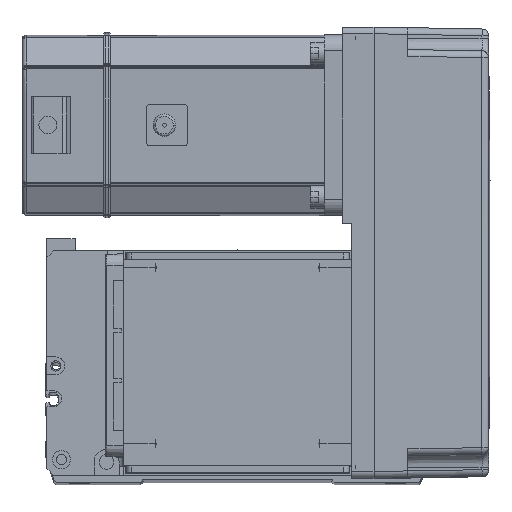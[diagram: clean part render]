
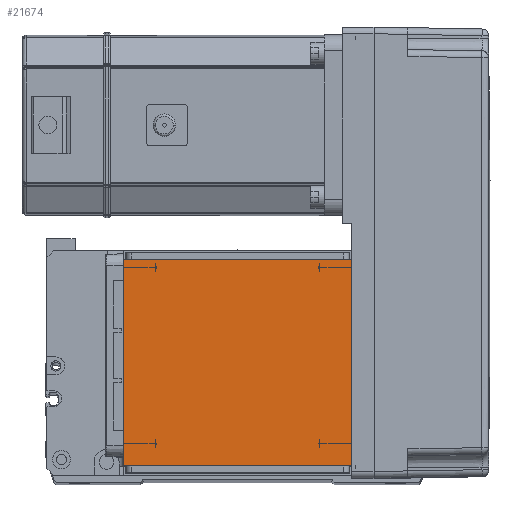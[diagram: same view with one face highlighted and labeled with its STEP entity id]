
A CAD part, top view. The second image highlights one B-rep face of the part: STEP entity #21674.
In plain terms, the highlighted planar face has unit normal (0, 0, 1).
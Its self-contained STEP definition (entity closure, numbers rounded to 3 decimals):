
#408 = CARTESIAN_POINT ( 'NONE',  ( -70.004, 111.5, 115. ) ) ;
#662 = EDGE_CURVE ( 'NONE', #37270, #21495, #6837, .T. ) ;
#1924 = DIRECTION ( 'NONE',  ( 0., 1., 0. ) ) ;
#3144 = CARTESIAN_POINT ( 'NONE',  ( 50.5, 20., 115. ) ) ;
#4136 = DIRECTION ( 'NONE',  ( 0., -1., 0. ) ) ;
#6837 = LINE ( 'NONE', #29856, #17219 ) ;
#7450 = LINE ( 'NONE', #408, #57201 ) ;
#11187 = ORIENTED_EDGE ( 'NONE', *, *, #41300, .F. ) ;
#11202 = DIRECTION ( 'NONE',  ( -1., 0., 0. ) ) ;
#12617 = EDGE_LOOP ( 'NONE', ( #11187, #43255, #39062, #35353 ) ) ;
#13497 = DIRECTION ( 'NONE',  ( 0., 0., 1. ) ) ;
#15111 = FACE_OUTER_BOUND ( 'NONE', #12617, .T. ) ;
#15440 = CARTESIAN_POINT ( 'NONE',  ( -50.5, 20., 115. ) ) ;
#16031 = VECTOR ( 'NONE', #11202, 1000. ) ;
#17219 = VECTOR ( 'NONE', #4136, 1000. ) ;
#17522 = DIRECTION ( 'NONE',  ( 1., 0., 0. ) ) ;
#18206 = CARTESIAN_POINT ( 'NONE',  ( -50.5, 111.5, 115. ) ) ;
#21495 = VERTEX_POINT ( 'NONE', #15440 ) ;
#21674 = ADVANCED_FACE ( 'NONE', ( #15111 ), #48833, .T. ) ;
#29856 = CARTESIAN_POINT ( 'NONE',  ( -50.5, 122., 115. ) ) ;
#31548 = DIRECTION ( 'NONE',  ( 1., 0., 0. ) ) ;
#32098 = VERTEX_POINT ( 'NONE', #42945 ) ;
#33242 = CARTESIAN_POINT ( 'NONE',  ( 50.5, 122., 115. ) ) ;
#33991 = LINE ( 'NONE', #50602, #16031 ) ;
#35353 = ORIENTED_EDGE ( 'NONE', *, *, #41523, .T. ) ;
#37270 = VERTEX_POINT ( 'NONE', #18206 ) ;
#38194 = EDGE_CURVE ( 'NONE', #39799, #21495, #33991, .T. ) ;
#39062 = ORIENTED_EDGE ( 'NONE', *, *, #38194, .F. ) ;
#39799 = VERTEX_POINT ( 'NONE', #3144 ) ;
#40984 = AXIS2_PLACEMENT_3D ( 'NONE', #44371, #13497, #17522 ) ;
#41300 = EDGE_CURVE ( 'NONE', #37270, #32098, #7450, .T. ) ;
#41523 = EDGE_CURVE ( 'NONE', #39799, #32098, #42908, .T. ) ;
#42908 = LINE ( 'NONE', #33242, #47015 ) ;
#42945 = CARTESIAN_POINT ( 'NONE',  ( 50.5, 111.5, 115. ) ) ;
#43255 = ORIENTED_EDGE ( 'NONE', *, *, #662, .T. ) ;
#44371 = CARTESIAN_POINT ( 'NONE',  ( 0., 0., 115. ) ) ;
#47015 = VECTOR ( 'NONE', #1924, 1000. ) ;
#48833 = PLANE ( 'NONE',  #40984 ) ;
#50602 = CARTESIAN_POINT ( 'NONE',  ( -70.004, 20., 115. ) ) ;
#57201 = VECTOR ( 'NONE', #31548, 1000. ) ;
